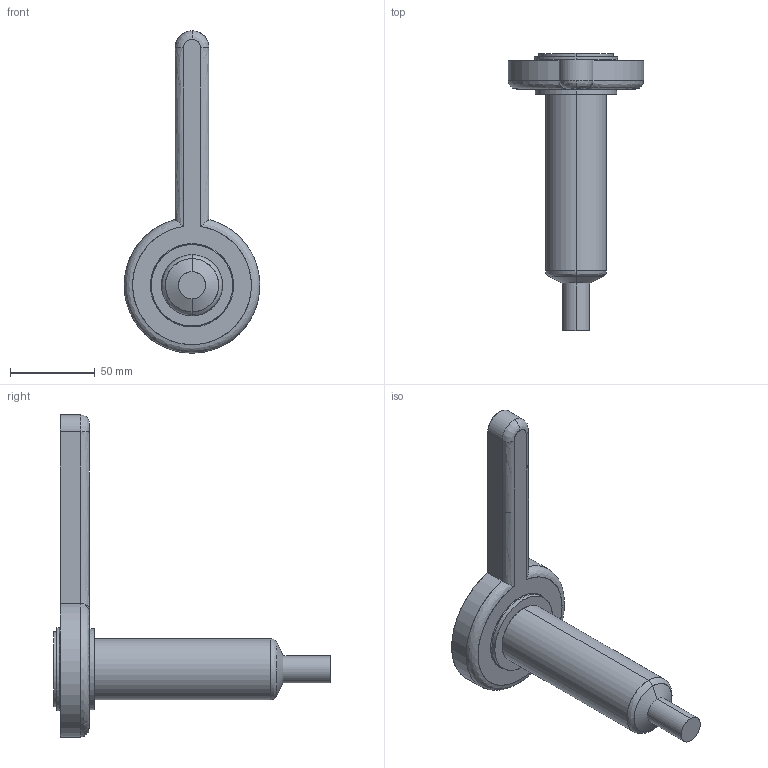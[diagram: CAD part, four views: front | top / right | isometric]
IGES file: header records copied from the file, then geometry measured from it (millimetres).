
Start section: SolidWorks IGES file using analytic representation for surfaces
Global section: file name: C:\Documents and Settings\ws-20\Desktop\TEMPORANEA\Sede UGBE5003-S-A C-114 L-136 P-25.IGS; native system: SolidWorks 2012; preprocessor: SolidWorks 2012; author: ws-20; date: 120307.090750; units: millimetre
Bounding box: 79.97 x 163.29 x 190 mm (x, y, z)
Surface area: 35716.9 mm2 (no closed solid volume)
Topology: 0 solids, 0 shells, 34 faces, 788 edges, 788 vertices
Faces by surface type: revolution 21, bspline 13
